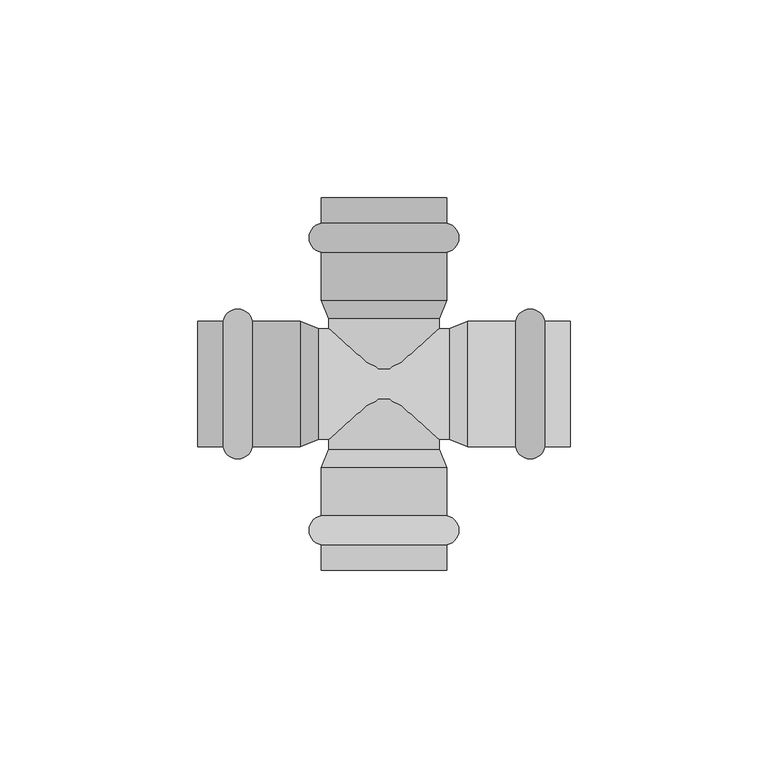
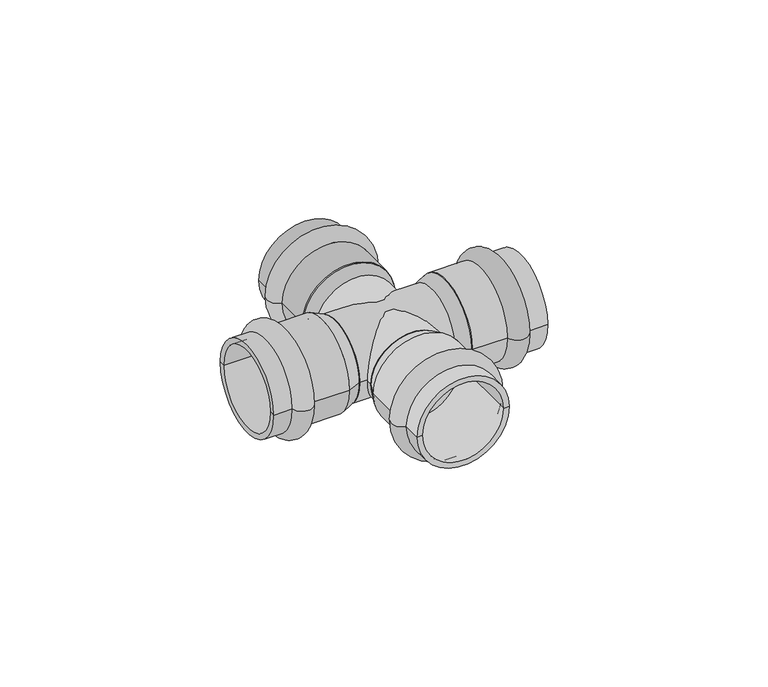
"""IFC4 building model written with IfcOpenShell, lengths in millimetres: pipe fitting geometry, VALTEC_VTi.941.I_Крестовина нержавеющая сталь : VTi.941.I."""

import ifcopenshell
import ifcopenshell.guid

model = None  # the IFC model being written
_history = None  # IfcOwnerHistory: only IFC2X3 demands one
_inside = {}  # id of a spatial element -> (the spatial element, [elements in it])
_under = {}  # id of a project, library or spatial element -> (it, [spatial elements below it])
_declared = {}  # id of a project -> (the project, [libraries it declares])
_typed = {}  # id of a type object -> (the type object, [elements of that type])
_made_of = {}  # id of a material, layer set ... -> (it, [elements and type objects made of it])


def new_model(schema):
    """Start an empty IFC model of exactly this schema.

    Asked for "IFC4X3", IfcOpenShell would pick the latest addendum, in which some entities
    have other attributes; the version numbers below select the first issue.
    IFC2X3 requires an IfcOwnerHistory on every rooted entity: one is made here for all.
    """
    global model, _history
    if schema == "IFC4X3":
        model = ifcopenshell.file(schema_version=(4, 3, 0, 0))
    else:
        model = ifcopenshell.file(schema=schema)
    _inside.clear()
    _under.clear()
    _declared.clear()
    _typed.clear()
    _made_of.clear()
    _history = None
    if model.schema == "IFC2X3":
        org = make("IfcOrganization", Name="unknown")
        user = make(
            "IfcPersonAndOrganization",
            ThePerson=make("IfcPerson", FamilyName="unknown"),
            TheOrganization=org,
        )
        app = make(
            "IfcApplication",
            ApplicationDeveloper=org,
            Version="unknown",
            ApplicationFullName="unknown",
            ApplicationIdentifier="unknown",
        )
        _history = make(
            "IfcOwnerHistory",
            OwningUser=user,
            OwningApplication=app,
            ChangeAction="ADDED",
            CreationDate=0,
        )
    return model


def make(cls, **values):
    """One entity of the class cls with the attributes given. An attribute that is None is left unset."""
    return model.create_entity(
        cls, **{name: value for name, value in values.items() if value is not None}
    )


def rooted(cls, **values):
    """An entity with a GlobalId (a new one), such as an element, a storey or a relation."""
    return make(cls, GlobalId=ifcopenshell.guid.new(), OwnerHistory=_history, **values)


def si_unit(unit_type, name, prefix=None):
    """IfcSIUnit, for example si_unit("LENGTHUNIT", "METRE", prefix="MILLI")."""
    return make("IfcSIUnit", UnitType=unit_type, Prefix=prefix, Name=name)


def assignment(units):
    """IfcUnitAssignment: the units of a project."""
    return None if units is None else make("IfcUnitAssignment", Units=units)


def point(xyz):
    """IfcCartesianPoint."""
    return None if xyz is None else make("IfcCartesianPoint", Coordinates=xyz)


def direction(xyz):
    """IfcDirection."""
    return None if xyz is None else make("IfcDirection", DirectionRatios=xyz)


def frame(location, z_axis=None, x_axis=None):
    """IfcAxis2Placement3D, a coordinate frame: its origin and axes. An axis left out is left unset."""
    return make(
        "IfcAxis2Placement3D",
        Location=point(location),
        Axis=direction(z_axis),
        RefDirection=direction(x_axis),
    )


def frame_2d(location, x_axis=None):
    """IfcAxis2Placement2D, a coordinate frame in the plane: its origin and x axis."""
    return make(
        "IfcAxis2Placement2D", Location=point(location), RefDirection=direction(x_axis)
    )


def origin():
    """The frame at (0, 0, 0) with its axes left unset."""
    return frame((0.0, 0.0, 0.0))


def origin_2d():
    """The frame at (0, 0) in the plane with its x axis left unset."""
    return frame_2d((0.0, 0.0))


def place(relative_to, where):
    """IfcLocalPlacement: puts the frame where relative to a parent placement (None: the world)."""
    return make(
        "IfcLocalPlacement", PlacementRelTo=relative_to, RelativePlacement=where
    )


def context(
    kind, dimensions, precision=None, world=None, true_north=None, identifier=None
):
    """IfcGeometricRepresentationContext, for example the 3D "Model" context."""
    return make(
        "IfcGeometricRepresentationContext",
        ContextIdentifier=identifier,
        ContextType=kind,
        CoordinateSpaceDimension=dimensions,
        Precision=precision,
        WorldCoordinateSystem=world,
        TrueNorth=true_north,
    )


def project(units=None, contexts=None):
    """IfcProject with its units and contexts."""
    return rooted(
        "IfcProject",
        Name="project",
        RepresentationContexts=contexts,
        UnitsInContext=assignment(units),
    )


def spatial(cls, under=None, at=None, **own):
    """A site, building, storey or space (cls), placed at a placement, below another one or the project."""
    s = rooted(cls, ObjectPlacement=at, **own)
    if under is not None:
        _under.setdefault(under.id(), (under, []))[1].append(s)
    return s


def polyline(points):
    """IfcPolyline through the points."""
    return make("IfcPolyline", Points=[point(p) for p in points])


def circle_curve(where, radius):
    """IfcCircle in the frame where."""
    return make("IfcCircle", Position=where, Radius=radius)


def ellipse_curve(where, semi_axis1, semi_axis2):
    """IfcEllipse in the frame where."""
    return make(
        "IfcEllipse", Position=where, SemiAxis1=semi_axis1, SemiAxis2=semi_axis2
    )


def trimmed(basis, trim1, trim2, sense, master):
    """IfcTrimmedCurve: the piece of a basis curve between two trims."""
    return make(
        "IfcTrimmedCurve",
        BasisCurve=basis,
        Trim1=trim1,
        Trim2=trim2,
        SenseAgreement=sense,
        MasterRepresentation=master,
    )


def segment(curve, same_sense, transition):
    """IfcCompositeCurveSegment."""
    return make(
        "IfcCompositeCurveSegment",
        Transition=transition,
        SameSense=same_sense,
        ParentCurve=curve,
    )


def composite_curve(segments, self_intersect=None):
    """IfcCompositeCurve: segments joined end to end."""
    return make("IfcCompositeCurve", Segments=segments, SelfIntersect=self_intersect)


def outline(outer, holes=None, kind="AREA"):
    """IfcArbitraryClosedProfileDef: a profile drawn as a closed curve; with holes, ...WithVoids."""
    if holes is None:
        return make("IfcArbitraryClosedProfileDef", ProfileType=kind, OuterCurve=outer)
    return make(
        "IfcArbitraryProfileDefWithVoids",
        ProfileType=kind,
        OuterCurve=outer,
        InnerCurves=holes,
    )


def extrude(swept, where, along, depth):
    """IfcExtrudedAreaSolid: the profile swept, set in the frame where, extruded along a direction by depth."""
    return make(
        "IfcExtrudedAreaSolid",
        SweptArea=swept,
        Position=where,
        ExtrudedDirection=direction(along),
        Depth=depth,
    )


def shape(context_of_items, identifier, shape_type, items):
    """IfcShapeRepresentation: the items that make up one representation, for example the "Body"."""
    return make(
        "IfcShapeRepresentation",
        ContextOfItems=context_of_items,
        RepresentationIdentifier=identifier,
        RepresentationType=shape_type,
        Items=items,
    )


def source(mapping_origin, context_of_items, identifier, shape_type, items):
    """IfcRepresentationMap: a shape defined once, which mapped items show again and again."""
    return make(
        "IfcRepresentationMap",
        MappingOrigin=mapping_origin,
        MappedRepresentation=shape(context_of_items, identifier, shape_type, items),
    )


def transform(
    local_origin,
    x_axis=None,
    y_axis=None,
    z_axis=None,
    scale=None,
    scale2=None,
    scale3=None,
    uniform=True,
):
    """IfcCartesianTransformationOperator3D, or its non-uniform kind. x_axis, y_axis, z_axis: its Axis1, 2, 3."""
    if uniform:
        return make(
            "IfcCartesianTransformationOperator3D",
            Axis1=direction(x_axis),
            Axis2=direction(y_axis),
            LocalOrigin=point(local_origin),
            Scale=scale,
            Axis3=direction(z_axis),
        )
    return make(
        "IfcCartesianTransformationOperator3DnonUniform",
        Axis1=direction(x_axis),
        Axis2=direction(y_axis),
        LocalOrigin=point(local_origin),
        Scale=scale,
        Axis3=direction(z_axis),
        Scale2=scale2,
        Scale3=scale3,
    )


def mapped(mapping_source, mapping_target):
    """IfcMappedItem: shows the shape of a source again, moved by a transform."""
    return make(
        "IfcMappedItem", MappingSource=mapping_source, MappingTarget=mapping_target
    )


def made_of(thing, what):
    """Note that an element or type object is made of a material, layer set ...; save() writes the relation."""
    if what is not None:
        _made_of.setdefault(what.id(), (what, []))[1].append(thing)
    return thing


def element(
    cls,
    number,
    at=None,
    inside=None,
    cuts=None,
    type_object=None,
    material=None,
    context=None,
    identifier="Body",
    shape_type=None,
    held_by="IfcProductDefinitionShape",
    body=None,
    shapes=None,
    **own,
):
    """One element of the class cls, such as IfcWall. Its Tag is "e" and its number.

    at: its placement. inside: the storey or other place that contains it. cuts: it is an
    opening in that element (IfcRelVoidsElement). A single representation is given by context,
    identifier, shape_type and body (its items); several are given by shapes. held_by: the class
    of the entity that holds the representations. save() writes the other relations.
    """
    e = rooted(cls, Tag="e%d" % number, ObjectPlacement=at, **own)
    if body is not None:
        shapes = [shape(context, identifier, shape_type, body)]
    if shapes is not None:
        e.Representation = make(held_by, Representations=shapes)
    if inside is not None:
        _inside.setdefault(inside.id(), (inside, []))[1].append(e)
    if cuts is not None:
        rooted(
            "IfcRelVoidsElement", RelatingBuildingElement=cuts, RelatedOpeningElement=e
        )
    if type_object is not None:
        _typed.setdefault(type_object.id(), (type_object, []))[1].append(e)
    return made_of(e, material)


def aggregate(whole, parts):
    """IfcRelAggregates: a whole, such as a stair, and the parts it consists of."""
    return rooted("IfcRelAggregates", RelatingObject=whole, RelatedObjects=parts)


def save(model, path):
    """Write the relations noted so far, then the file.

    IfcRelAggregates (storeys below a building ...), IfcRelContainedInSpatialStructure (elements
    in a storey), IfcRelDefinesByType, IfcRelAssociatesMaterial and IfcRelDeclares: one each for
    every whole, place, type object, material and project.
    """
    for whole, parts in _under.values():
        aggregate(whole, parts)
    for where, things in _inside.values():
        rooted(
            "IfcRelContainedInSpatialStructure",
            RelatedElements=things,
            RelatingStructure=where,
        )
    for kind, things in _typed.values():
        rooted("IfcRelDefinesByType", RelatedObjects=things, RelatingType=kind)
    for what, things in _made_of.values():
        rooted("IfcRelAssociatesMaterial", RelatedObjects=things, RelatingMaterial=what)
    for by, libraries in _declared.values():
        rooted("IfcRelDeclares", RelatingContext=by, RelatedDefinitions=libraries)
    model.write(path)


def plane_surface(at):
    """IfcPlane: the flat surface through the origin of the frame at, square to its z axis."""
    return make("IfcPlane", Position=at)


def cylinder_surface(at, radius):
    """IfcCylindricalSurface: all points at the distance radius from the z axis of the frame at."""
    return make("IfcCylindricalSurface", Position=at, Radius=radius)


def revolved_surface(curve, axis_point, axis_direction):
    """IfcSurfaceOfRevolution: the curve turned about the line through axis_point along axis_direction."""
    return make(
        "IfcSurfaceOfRevolution",
        SweptCurve=make("IfcArbitraryOpenProfileDef", ProfileType="CURVE", Curve=curve),
        AxisPosition=make("IfcAxis1Placement", Location=point(axis_point), Axis=direction(axis_direction)),
    )


def advanced_brep(points, edges, surfaces, faces):
    """IfcAdvancedBrep: a solid bounded by faces that lie on surfaces and meet in shared edges.

    An edge is (start, end): straight between two places in points (the first is 0);
    or (start, end, curve); or (start, end, curve, False) where it runs against its curve.
    A face is (place in surfaces, loops), or (place, loops, False) where it looks against
    its surface's normal. A loop lists edges by number (the first is 1), with a minus sign
    where the edge is run from its end to its start. The first loop is the outer one.
    """
    corners = [point(p) for p in points]
    vertices = [make("IfcVertexPoint", VertexGeometry=c) for c in corners]
    made = []
    for start, end, *more in edges:
        made.append(
            make(
                "IfcEdgeCurve",
                EdgeStart=vertices[start],
                EdgeEnd=vertices[end],
                EdgeGeometry=more[0] if more else make("IfcPolyline", Points=[corners[start], corners[end]]),
                SameSense=more[1] if len(more) > 1 else True,
            )
        )
    hull = []
    for where, loops, *sense in faces:
        bounds = []
        for j, loop in enumerate(loops):
            ring = [make("IfcOrientedEdge", EdgeElement=made[abs(k) - 1], Orientation=k > 0) for k in loop]
            bounds.append(
                make(
                    "IfcFaceOuterBound" if j == 0 else "IfcFaceBound",
                    Bound=make("IfcEdgeLoop", EdgeList=ring),
                    Orientation=True,
                )
            )
        hull.append(make("IfcAdvancedFace", Bounds=bounds, FaceSurface=surfaces[where], SameSense=sense[0] if sense else True))
    return make("IfcAdvancedBrep", Outer=make("IfcClosedShell", CfsFaces=hull))


def pipe_fitting_f0ee6756(model_context):
    return source(origin(), model_context, "Body", "SolidModel", [
        advanced_brep(
        [(15.9, -40.6242346, 0.0), (-15.9, -40.6242346, 0.0), (-15.9, -33.2757654, 0.0), (15.9, -33.2757654, 0.0), (15.9, -47.0, 0.0), (-15.9, -47.0, 0.0), (14.0, -47.0, 0.0), (-14.0, -47.0, 0.0), (14.0, -21.15, 0.0), (-14.0, -21.15, 0.0), (15.9, -21.15, 0.0), (-15.9, -21.15, 0.0)],
        [
            (0, 1, circle_curve(frame((0.0, -40.6242346, 0.0), z_axis=(0.0, 1.0, 0.0), x_axis=(-1.0, 0.0, 0.0)), 15.9)),
            (1, 2, circle_curve(frame((-15.15, -36.95, 0.0), z_axis=(0.0, 0.0, -1.0), x_axis=(0.0, 1.0, 0.0)), 3.75)),
            (2, 3, circle_curve(frame((0.0, -33.2757654, 0.0), z_axis=(0.0, -1.0, 0.0), x_axis=(-1.0, 0.0, 0.0)), 15.9)),
            (3, 0, circle_curve(frame((15.15, -36.95, 0.0), z_axis=(0.0, 0.0, -1.0), x_axis=(0.0, 1.0, 0.0)), 3.75)),
            (1, 0, circle_curve(frame((0.0, -40.6242346, 0.0), z_axis=(0.0, 1.0, 0.0), x_axis=(-1.0, 0.0, 0.0)), 15.9)),
            (3, 2, circle_curve(frame((0.0, -33.2757654, 0.0), z_axis=(0.0, -1.0, 0.0), x_axis=(-1.0, 0.0, 0.0)), 15.9)),
            (4, 5, circle_curve(frame((0.0, -47.0, 0.0), z_axis=(0.0, 1.0, 0.0), x_axis=(-1.0, 0.0, 0.0)), 15.9)),
            (5, 1),
            (0, 4),
            (5, 4, circle_curve(frame((0.0, -47.0, 0.0), z_axis=(0.0, 1.0, 0.0), x_axis=(-1.0, 0.0, 0.0)), 15.9)),
            (6, 7, circle_curve(frame((0.0, -47.0, 0.0), z_axis=(0.0, 1.0, 0.0), x_axis=(-1.0, 0.0, 0.0)), 14.0)),
            (7, 5),
            (4, 6),
            (7, 6, circle_curve(frame((0.0, -47.0, 0.0), z_axis=(0.0, 1.0, 0.0), x_axis=(-1.0, 0.0, 0.0)), 14.0)),
            (8, 9, circle_curve(frame((0.0, -21.15, 0.0), z_axis=(0.0, 1.0, 0.0), x_axis=(-1.0, 0.0, 0.0)), 14.0)),
            (9, 7),
            (6, 8),
            (9, 8, circle_curve(frame((0.0, -21.15, 0.0), z_axis=(0.0, 1.0, 0.0), x_axis=(-1.0, 0.0, 0.0)), 14.0)),
            (10, 11, circle_curve(frame((0.0, -21.15, 0.0), z_axis=(0.0, 1.0, 0.0), x_axis=(-1.0, 0.0, 0.0)), 15.9)),
            (11, 9),
            (8, 10),
            (11, 10, circle_curve(frame((0.0, -21.15, 0.0), z_axis=(0.0, 1.0, 0.0), x_axis=(-1.0, 0.0, 0.0)), 15.9)),
            (2, 11),
            (10, 3),
        ],
        [
            revolved_surface(trimmed(ellipse_curve(frame((-15.15, -36.95, 0.0), z_axis=(0.0, 0.0, 1.0), x_axis=(0.0, 1.0, 0.0)), 3.75, 3.75), [point((-15.9, -33.2757654, 0.0))], [point((-15.9, -40.6242346, 0.0))], True, "CARTESIAN"), (0.0, -50.5364426, 0.0), (0.0, -1.0, 0.0)),
            cylinder_surface(frame((0.0, -50.5364426, 0.0), z_axis=(0.0, -1.0, 0.0), x_axis=(-1.0, 0.0, 0.0)), 15.9),
            plane_surface(frame((0.0, -47.0, 0.0), z_axis=(0.0, -1.0, 0.0), x_axis=(-1.0, 0.0, 0.0))),
            revolved_surface(polyline([(-14.0, -47.0, 0.0), (-14.0, -21.15, 0.0)]), (0.0, -50.5364426, 0.0), (0.0, -1.0, 0.0)),
            plane_surface(frame((0.0, -21.15, 0.0), z_axis=(0.0, 1.0, 0.0), x_axis=(-1.0, 0.0, 0.0))),
        ],
        [
            (0, [[1, 2, 3, 4]]),
            (0, [[5, -4, 6, -2]]),
            (1, [[7, 8, -1, 9]]),
            (1, [[10, -9, -5, -8]]),
            (2, [[11, 12, -7, 13]]),
            (2, [[14, -13, -10, -12]]),
            (3, [[15, 16, -11, 17]]),
            (3, [[18, -17, -14, -16]]),
            (4, [[19, 20, -15, 21]]),
            (4, [[22, -21, -18, -20]]),
            (1, [[-3, 23, -19, 24]]),
            (1, [[-6, -24, -22, -23]]),
        ],
    ),
        advanced_brep(
        [(40.6242346, 15.9, 0.0), (40.6242346, -15.9, 0.0), (33.2757654, -15.9, 0.0), (33.2757654, 15.9, 0.0), (47.0, 15.9, 0.0), (47.0, -15.9, 0.0), (47.0, 14.0, 0.0), (47.0, -14.0, 0.0), (21.15, 14.0, 0.0), (21.15, -14.0, 0.0), (21.15, 15.9, 0.0), (21.15, -15.9, 0.0)],
        [
            (0, 1, circle_curve(frame((40.6242346, 0.0, 0.0), z_axis=(-1.0, 0.0, 0.0), x_axis=(0.0, -1.0, 0.0)), 15.9)),
            (1, 2, circle_curve(frame((36.95, -15.15, 0.0), z_axis=(0.0, 0.0, -1.0), x_axis=(-1.0, 0.0, 0.0)), 3.75)),
            (2, 3, circle_curve(frame((33.2757654, 0.0, 0.0), z_axis=(1.0, 0.0, 0.0), x_axis=(0.0, -1.0, 0.0)), 15.9)),
            (3, 0, circle_curve(frame((36.95, 15.15, 0.0), z_axis=(0.0, 0.0, -1.0), x_axis=(-1.0, 0.0, 0.0)), 3.75)),
            (1, 0, circle_curve(frame((40.6242346, 0.0, 0.0), z_axis=(-1.0, 0.0, 0.0), x_axis=(0.0, -1.0, 0.0)), 15.9)),
            (3, 2, circle_curve(frame((33.2757654, 0.0, 0.0), z_axis=(1.0, 0.0, 0.0), x_axis=(0.0, -1.0, 0.0)), 15.9)),
            (4, 5, circle_curve(frame((47.0, 0.0, 0.0), z_axis=(-1.0, 0.0, 0.0), x_axis=(0.0, -1.0, 0.0)), 15.9)),
            (5, 1),
            (0, 4),
            (5, 4, circle_curve(frame((47.0, 0.0, 0.0), z_axis=(-1.0, 0.0, 0.0), x_axis=(0.0, -1.0, 0.0)), 15.9)),
            (6, 7, circle_curve(frame((47.0, 0.0, 0.0), z_axis=(-1.0, 0.0, 0.0), x_axis=(0.0, -1.0, 0.0)), 14.0)),
            (7, 5),
            (4, 6),
            (7, 6, circle_curve(frame((47.0, 0.0, 0.0), z_axis=(-1.0, 0.0, 0.0), x_axis=(0.0, -1.0, 0.0)), 14.0)),
            (8, 9, circle_curve(frame((21.15, 0.0, 0.0), z_axis=(-1.0, 0.0, 0.0), x_axis=(0.0, -1.0, 0.0)), 14.0)),
            (9, 7),
            (6, 8),
            (9, 8, circle_curve(frame((21.15, 0.0, 0.0), z_axis=(-1.0, 0.0, 0.0), x_axis=(0.0, -1.0, 0.0)), 14.0)),
            (10, 11, circle_curve(frame((21.15, 0.0, 0.0), z_axis=(-1.0, 0.0, 0.0), x_axis=(0.0, -1.0, 0.0)), 15.9)),
            (11, 9),
            (8, 10),
            (11, 10, circle_curve(frame((21.15, 0.0, 0.0), z_axis=(-1.0, 0.0, 0.0), x_axis=(0.0, -1.0, 0.0)), 15.9)),
            (2, 11),
            (10, 3),
        ],
        [
            revolved_surface(trimmed(ellipse_curve(frame((36.95, -15.15, 0.0), z_axis=(0.0, 0.0, 1.0), x_axis=(-1.0, 0.0, 0.0)), 3.75, 3.75), [point((33.2757654, -15.9, 0.0))], [point((40.6242346, -15.9, 0.0))], True, "CARTESIAN"), (50.5364426, 0.0, 0.0), (1.0, 0.0, 0.0)),
            cylinder_surface(frame((50.5364426, 0.0, 0.0), z_axis=(1.0, 0.0, 0.0), x_axis=(0.0, -1.0, 0.0)), 15.9),
            plane_surface(frame((47.0, 0.0, 0.0), z_axis=(1.0, 0.0, 0.0), x_axis=(0.0, -1.0, 0.0))),
            revolved_surface(polyline([(47.0, -14.0, 0.0), (21.15, -14.0, 0.0)]), (50.5364426, 0.0, 0.0), (1.0, 0.0, 0.0)),
            plane_surface(frame((21.15, 0.0, 0.0), z_axis=(-1.0, 0.0, 0.0), x_axis=(0.0, -1.0, 0.0))),
        ],
        [
            (0, [[1, 2, 3, 4]]),
            (0, [[5, -4, 6, -2]]),
            (1, [[7, 8, -1, 9]]),
            (1, [[10, -9, -5, -8]]),
            (2, [[11, 12, -7, 13]]),
            (2, [[14, -13, -10, -12]]),
            (3, [[15, 16, -11, 17]]),
            (3, [[18, -17, -14, -16]]),
            (4, [[19, 20, -15, 21]]),
            (4, [[22, -21, -18, -20]]),
            (1, [[-3, 23, -19, 24]]),
            (1, [[-6, -24, -22, -23]]),
        ],
    ),
        advanced_brep(
        [(-40.6242346, -15.9, 0.0), (-40.6242346, 15.9, 0.0), (-33.2757654, 15.9, 0.0), (-33.2757654, -15.9, 0.0), (-47.0, -15.9, 0.0), (-47.0, 15.9, 0.0), (-47.0, -14.0, 0.0), (-47.0, 14.0, 0.0), (-21.15, -14.0, 0.0), (-21.15, 14.0, 0.0), (-21.15, -15.9, 0.0), (-21.15, 15.9, 0.0)],
        [
            (0, 1, circle_curve(frame((-40.6242346, 0.0, 0.0), z_axis=(1.0, 0.0, 0.0), x_axis=(0.0, 1.0, 0.0)), 15.9)),
            (1, 2, circle_curve(frame((-36.95, 15.15, 0.0), z_axis=(0.0, 0.0, -1.0), x_axis=(1.0, 0.0, 0.0)), 3.75)),
            (2, 3, circle_curve(frame((-33.2757654, 0.0, 0.0), z_axis=(-1.0, 0.0, 0.0), x_axis=(0.0, 1.0, 0.0)), 15.9)),
            (3, 0, circle_curve(frame((-36.95, -15.15, 0.0), z_axis=(0.0, 0.0, -1.0), x_axis=(1.0, 0.0, 0.0)), 3.75)),
            (1, 0, circle_curve(frame((-40.6242346, 0.0, 0.0), z_axis=(1.0, 0.0, 0.0), x_axis=(0.0, 1.0, 0.0)), 15.9)),
            (3, 2, circle_curve(frame((-33.2757654, 0.0, 0.0), z_axis=(-1.0, 0.0, 0.0), x_axis=(0.0, 1.0, 0.0)), 15.9)),
            (4, 5, circle_curve(frame((-47.0, 0.0, 0.0), z_axis=(1.0, 0.0, 0.0), x_axis=(0.0, 1.0, 0.0)), 15.9)),
            (5, 1),
            (0, 4),
            (5, 4, circle_curve(frame((-47.0, 0.0, 0.0), z_axis=(1.0, 0.0, 0.0), x_axis=(0.0, 1.0, 0.0)), 15.9)),
            (6, 7, circle_curve(frame((-47.0, 0.0, 0.0), z_axis=(1.0, 0.0, 0.0), x_axis=(0.0, 1.0, 0.0)), 14.0)),
            (7, 5),
            (4, 6),
            (7, 6, circle_curve(frame((-47.0, 0.0, 0.0), z_axis=(1.0, 0.0, 0.0), x_axis=(0.0, 1.0, 0.0)), 14.0)),
            (8, 9, circle_curve(frame((-21.15, 0.0, 0.0), z_axis=(1.0, 0.0, 0.0), x_axis=(0.0, 1.0, 0.0)), 14.0)),
            (9, 7),
            (6, 8),
            (9, 8, circle_curve(frame((-21.15, 0.0, 0.0), z_axis=(1.0, 0.0, 0.0), x_axis=(0.0, 1.0, 0.0)), 14.0)),
            (10, 11, circle_curve(frame((-21.15, 0.0, 0.0), z_axis=(1.0, 0.0, 0.0), x_axis=(0.0, 1.0, 0.0)), 15.9)),
            (11, 9),
            (8, 10),
            (11, 10, circle_curve(frame((-21.15, 0.0, 0.0), z_axis=(1.0, 0.0, 0.0), x_axis=(0.0, 1.0, 0.0)), 15.9)),
            (2, 11),
            (10, 3),
        ],
        [
            revolved_surface(trimmed(ellipse_curve(frame((-36.95, 15.15, 0.0), z_axis=(0.0, 0.0, 1.0), x_axis=(1.0, 0.0, 0.0)), 3.75, 3.75), [point((-33.2757654, 15.9, 0.0))], [point((-40.6242346, 15.9, 0.0))], True, "CARTESIAN"), (-50.5364426, 0.0, 0.0), (-1.0, 0.0, 0.0)),
            cylinder_surface(frame((-50.5364426, 0.0, 0.0), z_axis=(-1.0, 0.0, 0.0), x_axis=(0.0, 1.0, 0.0)), 15.9),
            plane_surface(frame((-47.0, 0.0, 0.0), z_axis=(-1.0, 0.0, 0.0), x_axis=(0.0, 1.0, 0.0))),
            revolved_surface(polyline([(-47.0, 14.0, 0.0), (-21.15, 14.0, 0.0)]), (-50.5364426, 0.0, 0.0), (-1.0, 0.0, 0.0)),
            plane_surface(frame((-21.15, 0.0, 0.0), z_axis=(1.0, 0.0, 0.0), x_axis=(0.0, 1.0, 0.0))),
        ],
        [
            (0, [[1, 2, 3, 4]]),
            (0, [[5, -4, 6, -2]]),
            (1, [[7, 8, -1, 9]]),
            (1, [[10, -9, -5, -8]]),
            (2, [[11, 12, -7, 13]]),
            (2, [[14, -13, -10, -12]]),
            (3, [[15, 16, -11, 17]]),
            (3, [[18, -17, -14, -16]]),
            (4, [[19, 20, -15, 21]]),
            (4, [[22, -21, -18, -20]]),
            (1, [[-3, 23, -19, 24]]),
            (1, [[-6, -24, -22, -23]]),
        ],
    ),
        advanced_brep(
        [(-15.9, 40.6242346, 0.0), (15.9, 40.6242346, 0.0), (15.9, 33.2757654, 0.0), (-15.9, 33.2757654, 0.0), (-15.9, 47.0, 0.0), (15.9, 47.0, 0.0), (-14.0, 47.0, 0.0), (14.0, 47.0, 0.0), (-14.0, 21.15, 0.0), (14.0, 21.15, 0.0), (-15.9, 21.15, 0.0), (15.9, 21.15, 0.0)],
        [
            (0, 1, circle_curve(frame((0.0, 40.6242346, 0.0), z_axis=(0.0, -1.0, 0.0), x_axis=(1.0, 0.0, 0.0)), 15.9)),
            (1, 2, circle_curve(frame((15.15, 36.95, 0.0), z_axis=(0.0, 0.0, -1.0), x_axis=(0.0, -1.0, 0.0)), 3.75)),
            (2, 3, circle_curve(frame((0.0, 33.2757654, 0.0), z_axis=(0.0, 1.0, 0.0), x_axis=(1.0, 0.0, 0.0)), 15.9)),
            (3, 0, circle_curve(frame((-15.15, 36.95, 0.0), z_axis=(0.0, 0.0, -1.0), x_axis=(0.0, -1.0, 0.0)), 3.75)),
            (1, 0, circle_curve(frame((0.0, 40.6242346, 0.0), z_axis=(0.0, -1.0, 0.0), x_axis=(1.0, 0.0, 0.0)), 15.9)),
            (3, 2, circle_curve(frame((0.0, 33.2757654, 0.0), z_axis=(0.0, 1.0, 0.0), x_axis=(1.0, 0.0, 0.0)), 15.9)),
            (4, 5, circle_curve(frame((0.0, 47.0, 0.0), z_axis=(0.0, -1.0, 0.0), x_axis=(1.0, 0.0, 0.0)), 15.9)),
            (5, 1),
            (0, 4),
            (5, 4, circle_curve(frame((0.0, 47.0, 0.0), z_axis=(0.0, -1.0, 0.0), x_axis=(1.0, 0.0, 0.0)), 15.9)),
            (6, 7, circle_curve(frame((0.0, 47.0, 0.0), z_axis=(0.0, -1.0, 0.0), x_axis=(1.0, 0.0, 0.0)), 14.0)),
            (7, 5),
            (4, 6),
            (7, 6, circle_curve(frame((0.0, 47.0, 0.0), z_axis=(0.0, -1.0, 0.0), x_axis=(1.0, 0.0, 0.0)), 14.0)),
            (8, 9, circle_curve(frame((0.0, 21.15, 0.0), z_axis=(0.0, -1.0, 0.0), x_axis=(1.0, 0.0, 0.0)), 14.0)),
            (9, 7),
            (6, 8),
            (9, 8, circle_curve(frame((0.0, 21.15, 0.0), z_axis=(0.0, -1.0, 0.0), x_axis=(1.0, 0.0, 0.0)), 14.0)),
            (10, 11, circle_curve(frame((0.0, 21.15, 0.0), z_axis=(0.0, -1.0, 0.0), x_axis=(1.0, 0.0, 0.0)), 15.9)),
            (11, 9),
            (8, 10),
            (11, 10, circle_curve(frame((0.0, 21.15, 0.0), z_axis=(0.0, -1.0, 0.0), x_axis=(1.0, 0.0, 0.0)), 15.9)),
            (2, 11),
            (10, 3),
        ],
        [
            revolved_surface(trimmed(ellipse_curve(frame((15.15, 36.95, 0.0), z_axis=(0.0, 0.0, 1.0), x_axis=(0.0, -1.0, 0.0)), 3.75, 3.75), [point((15.9, 33.2757654, 0.0))], [point((15.9, 40.6242346, 0.0))], True, "CARTESIAN"), (0.0, 50.5364426, 0.0), (0.0, 1.0, 0.0)),
            cylinder_surface(frame((0.0, 50.5364426, 0.0), z_axis=(0.0, 1.0, 0.0), x_axis=(1.0, 0.0, 0.0)), 15.9),
            plane_surface(frame((0.0, 47.0, 0.0), z_axis=(0.0, 1.0, 0.0), x_axis=(1.0, 0.0, 0.0))),
            revolved_surface(polyline([(14.0, 47.0, 0.0), (14.0, 21.15, 0.0)]), (0.0, 50.5364426, 0.0), (0.0, 1.0, 0.0)),
            plane_surface(frame((0.0, 21.15, 0.0), z_axis=(0.0, -1.0, 0.0), x_axis=(1.0, 0.0, 0.0))),
        ],
        [
            (0, [[1, 2, 3, 4]]),
            (0, [[5, -4, 6, -2]]),
            (1, [[7, 8, -1, 9]]),
            (1, [[10, -9, -5, -8]]),
            (2, [[11, 12, -7, 13]]),
            (2, [[14, -13, -10, -12]]),
            (3, [[15, 16, -11, 17]]),
            (3, [[18, -17, -14, -16]]),
            (4, [[19, 20, -15, 21]]),
            (4, [[22, -21, -18, -20]]),
            (1, [[-3, 23, -19, 24]]),
            (1, [[-6, -24, -22, -23]]),
        ],
    ),
        extrude(outline(composite_curve([segment(trimmed(circle_curve(origin_2d(), 14.0), [point((-14.0, 0.0))], [point((14.0, 0.0))], False, "CARTESIAN"), True, "CONTINUOUS"), segment(trimmed(circle_curve(origin_2d(), 14.0), [point((14.0, 0.0))], [point((-14.0, 0.0))], False, "CARTESIAN"), True, "CONTINUOUS")], self_intersect=False)), frame((-16.45, 0.0, 0.0), z_axis=(1.0, 0.0, 0.0), x_axis=(0.0, 1.0, 0.0)), (0.0, 0.0, 1.0), 32.9),
        extrude(outline(composite_curve([segment(trimmed(circle_curve(origin_2d(), 14.0), [point((0.0, -14.0))], [point((0.0, 14.0))], False, "CARTESIAN"), True, "CONTINUOUS"), segment(trimmed(circle_curve(origin_2d(), 14.0), [point((0.0, 14.0))], [point((0.0, -14.0))], False, "CARTESIAN"), True, "CONTINUOUS")], self_intersect=False)), frame((0.0, -16.45, 0.0), z_axis=(0.0, 1.0, 0.0), x_axis=(0.0, 0.0, 1.0)), (0.0, 0.0, 1.0), 32.9),
        advanced_brep(
        [(-21.15, -15.9, 0.0), (-21.15, 15.9, 0.0), (-16.45, -14.0, 0.0), (-16.45, 14.0, 0.0)],
        [
            (0, 1, circle_curve(frame((-21.15, 0.0, 0.0), z_axis=(-1.0, 0.0, 0.0), x_axis=(0.0, -1.0, 0.0)), 15.9)),
            (1, 0, circle_curve(frame((-21.15, 0.0, 0.0), z_axis=(-1.0, 0.0, 0.0), x_axis=(0.0, 1.0, 0.0)), 15.9)),
            (2, 3, circle_curve(frame((-16.45, 0.0, 0.0), z_axis=(1.0, 0.0, 0.0), x_axis=(0.0, 1.0, 0.0)), 14.0)),
            (3, 2, circle_curve(frame((-16.45, 0.0, 0.0), z_axis=(1.0, 0.0, 0.0), x_axis=(0.0, -1.0, 0.0)), 14.0)),
            (2, 0),
            (1, 3),
        ],
        [
            plane_surface(frame((-21.15, 0.0, 0.0), z_axis=(-1.0, 0.0, 0.0), x_axis=(0.0, 0.0, 1.0))),
            plane_surface(frame((-16.45, 0.0, 0.0), z_axis=(1.0, 0.0, 0.0), x_axis=(0.0, 0.0, 1.0))),
            revolved_surface(polyline([(-16.45, -13.999999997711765, 0.0), (-21.149999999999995, -15.9, 0.0)]), (18.1815789, 0.0, 0.0), (-1.0, 0.0, 0.0)),
            revolved_surface(polyline([(-16.45, 13.999999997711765, 0.0), (-21.149999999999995, 15.9, 0.0)]), (18.1815789, 0.0, 0.0), (-1.0, 0.0, 0.0)),
        ],
        [
            (0, [[1, 2]]),
            (1, [[3, 4]]),
            (2, [[-3, 5, -2, 6]]),
            (3, [[-4, -6, -1, -5]]),
        ],
    ),
        advanced_brep(
        [(21.15, -15.9, 0.0), (21.15, 15.9, 0.0), (16.45, -14.0, 0.0), (16.45, 14.0, 0.0)],
        [
            (0, 1, circle_curve(frame((21.15, 0.0, 0.0), z_axis=(1.0, 0.0, 0.0), x_axis=(0.0, -1.0, 0.0)), 15.9)),
            (1, 0, circle_curve(frame((21.15, 0.0, 0.0), z_axis=(1.0, 0.0, 0.0), x_axis=(0.0, 1.0, 0.0)), 15.9)),
            (2, 3, circle_curve(frame((16.45, 0.0, 0.0), z_axis=(-1.0, 0.0, 0.0), x_axis=(0.0, 1.0, 0.0)), 14.0)),
            (3, 2, circle_curve(frame((16.45, 0.0, 0.0), z_axis=(-1.0, 0.0, 0.0), x_axis=(0.0, -1.0, 0.0)), 14.0)),
            (3, 1),
            (0, 2),
        ],
        [
            plane_surface(frame((21.15, 0.0, 0.0), z_axis=(1.0, 0.0, 0.0), x_axis=(0.0, 0.0, -1.0))),
            plane_surface(frame((16.45, 0.0, 0.0), z_axis=(-1.0, 0.0, 0.0), x_axis=(0.0, 0.0, -1.0))),
            revolved_surface(polyline([(16.45, 13.999999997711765, 0.0), (21.149999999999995, 15.9, 0.0)]), (-18.1815789, 0.0, 0.0), (1.0, 0.0, 0.0)),
            revolved_surface(polyline([(16.45, -13.999999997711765, 0.0), (21.149999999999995, -15.9, 0.0)]), (-18.1815789, 0.0, 0.0), (1.0, 0.0, 0.0)),
        ],
        [
            (0, [[1, 2]]),
            (1, [[3, 4]]),
            (2, [[-4, 5, -1, 6]]),
            (3, [[-3, -6, -2, -5]]),
        ],
    ),
        advanced_brep(
        [(-15.9, -21.15, 0.0), (15.9, -21.15, 0.0), (-14.0, -16.45, 0.0), (14.0, -16.45, 0.0)],
        [
            (0, 1, circle_curve(frame((0.0, -21.15, 0.0), z_axis=(0.0, -1.0, 0.0), x_axis=(-1.0, 0.0, 0.0)), 15.9)),
            (1, 0, circle_curve(frame((0.0, -21.15, 0.0), z_axis=(0.0, -1.0, 0.0), x_axis=(1.0, 0.0, 0.0)), 15.9)),
            (2, 3, circle_curve(frame((0.0, -16.45, 0.0), z_axis=(0.0, 1.0, 0.0), x_axis=(1.0, 0.0, 0.0)), 14.0)),
            (3, 2, circle_curve(frame((0.0, -16.45, 0.0), z_axis=(0.0, 1.0, 0.0), x_axis=(-1.0, 0.0, 0.0)), 14.0)),
            (3, 1),
            (0, 2),
        ],
        [
            plane_surface(frame((0.0, -21.15, 0.0), z_axis=(0.0, -1.0, 0.0), x_axis=(0.0, 0.0, 1.0))),
            plane_surface(frame((0.0, -16.45, 0.0), z_axis=(0.0, 1.0, 0.0), x_axis=(0.0, 0.0, 1.0))),
            revolved_surface(polyline([(13.999999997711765, -16.45, 0.0), (15.9, -21.149999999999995, 0.0)]), (0.0, 18.1815789, 0.0), (0.0, -1.0, 0.0)),
            revolved_surface(polyline([(-13.999999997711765, -16.45, 0.0), (-15.9, -21.149999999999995, 0.0)]), (0.0, 18.1815789, 0.0), (0.0, -1.0, 0.0)),
        ],
        [
            (0, [[1, 2]]),
            (1, [[3, 4]]),
            (2, [[-4, 5, -1, 6]]),
            (3, [[-3, -6, -2, -5]]),
        ],
    ),
        advanced_brep(
        [(-15.9, 21.15, 0.0), (15.9, 21.15, 0.0), (-14.0, 16.45, 0.0), (14.0, 16.45, 0.0)],
        [
            (0, 1, circle_curve(frame((0.0, 21.15, 0.0), z_axis=(0.0, 1.0, 0.0), x_axis=(-1.0, 0.0, 0.0)), 15.9)),
            (1, 0, circle_curve(frame((0.0, 21.15, 0.0), z_axis=(0.0, 1.0, 0.0), x_axis=(1.0, 0.0, 0.0)), 15.9)),
            (2, 3, circle_curve(frame((0.0, 16.45, 0.0), z_axis=(0.0, -1.0, 0.0), x_axis=(1.0, 0.0, 0.0)), 14.0)),
            (3, 2, circle_curve(frame((0.0, 16.45, 0.0), z_axis=(0.0, -1.0, 0.0), x_axis=(-1.0, 0.0, 0.0)), 14.0)),
            (2, 0),
            (1, 3),
        ],
        [
            plane_surface(frame((0.0, 21.15, 0.0), z_axis=(0.0, 1.0, 0.0), x_axis=(0.0, 0.0, -1.0))),
            plane_surface(frame((0.0, 16.45, 0.0), z_axis=(0.0, -1.0, 0.0), x_axis=(0.0, 0.0, -1.0))),
            revolved_surface(polyline([(-13.999999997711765, 16.45, 0.0), (-15.9, 21.149999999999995, 0.0)]), (0.0, -18.1815789, 0.0), (0.0, 1.0, 0.0)),
            revolved_surface(polyline([(13.999999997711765, 16.45, 0.0), (15.9, 21.149999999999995, 0.0)]), (0.0, -18.1815789, 0.0), (0.0, 1.0, 0.0)),
        ],
        [
            (0, [[1, 2]]),
            (1, [[3, 4]]),
            (2, [[-3, 5, -2, 6]]),
            (3, [[-4, -6, -1, -5]]),
        ],
    ),
    ])


if __name__ == "__main__":
    model = new_model("IFC4")
    model_context = context("Model", 3, world=origin())
    ifc_project = project(units=[si_unit("LENGTHUNIT", "METRE", prefix="MILLI")], contexts=[model_context])
    site = spatial("IfcSite", under=ifc_project)
    building = spatial("IfcBuilding", under=site)
    placement = place(None, origin())
    pipe_fitting_shape = pipe_fitting_f0ee6756(model_context)
    element("IfcPipeFitting", 1, ObjectType="VALTEC_VTi.941.I_Крестовина нержавеющая сталь : VTi.941.I", at=placement, inside=building, context=model_context, shape_type="MappedRepresentation", body=[
        mapped(pipe_fitting_shape, transform((0.0, 0.0, 0.0), x_axis=(1.0, 0.0, 0.0), y_axis=(0.0, 1.0, 0.0), z_axis=(0.0, 0.0, 1.0))),
    ])
    save(model, "model.ifc")
